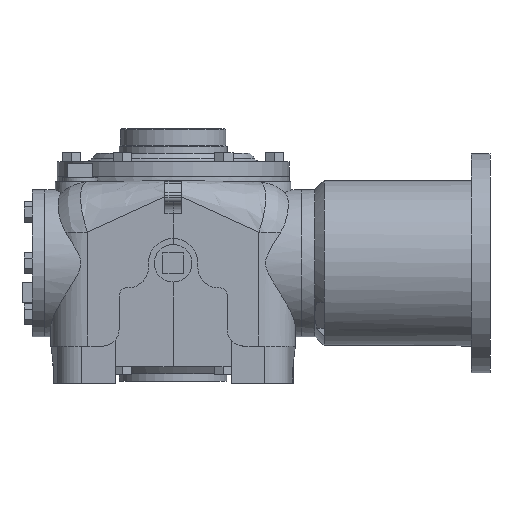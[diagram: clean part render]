
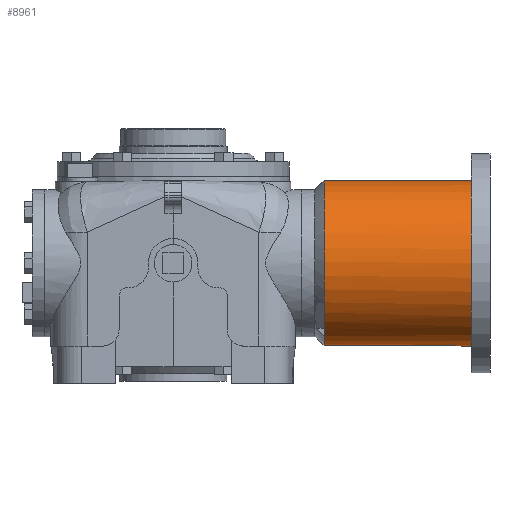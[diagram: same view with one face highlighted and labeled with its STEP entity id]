
A CAD part, front view. The second image highlights one B-rep face of the part: STEP entity #8961.
In plain terms, the highlighted cylindrical face has radius 63.5 mm (diameter 127 mm), a full revolution.
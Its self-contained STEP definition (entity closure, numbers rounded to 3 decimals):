
#212=CYLINDRICAL_SURFACE('',#11303,63.5);
#863=LINE('',#18647,#1651);
#864=LINE('',#18660,#1652);
#1651=VECTOR('',#13331,1000.);
#1652=VECTOR('',#13332,1000.);
#2043=B_SPLINE_CURVE_WITH_KNOTS('',3,(#18649,#18650,#18651,#18652,#18653,
#18654,#18655,#18656,#18657,#18658),.UNSPECIFIED.,.F.,.F.,(4,1,1,1,1,1,
1,4),(0.,0.002,0.005,0.007,0.01,
0.012,0.015,0.02),.UNSPECIFIED.);
#4096=ORIENTED_EDGE('',*,*,#5542,.F.);
#4097=ORIENTED_EDGE('',*,*,#5543,.F.);
#4098=ORIENTED_EDGE('',*,*,#5544,.F.);
#4099=ORIENTED_EDGE('',*,*,#5428,.T.);
#4100=ORIENTED_EDGE('',*,*,#5545,.T.);
#4101=ORIENTED_EDGE('',*,*,#5422,.T.);
#4102=ORIENTED_EDGE('',*,*,#5541,.F.);
#5422=EDGE_CURVE('',#6371,#6372,#6739,.T.);
#5428=EDGE_CURVE('',#6377,#6376,#6741,.T.);
#5541=EDGE_CURVE('',#6459,#6459,#6761,.T.);
#5542=EDGE_CURVE('',#6460,#6372,#863,.F.);
#5543=EDGE_CURVE('',#6461,#6460,#2043,.T.);
#5544=EDGE_CURVE('',#6377,#6461,#864,.T.);
#5545=EDGE_CURVE('',#6376,#6371,#6762,.T.);
#6371=VERTEX_POINT('',#18368);
#6372=VERTEX_POINT('',#18369);
#6376=VERTEX_POINT('',#18391);
#6377=VERTEX_POINT('',#18393);
#6459=VERTEX_POINT('',#18645);
#6460=VERTEX_POINT('',#18648);
#6461=VERTEX_POINT('',#18659);
#6739=CIRCLE('',#11232,63.5);
#6741=CIRCLE('',#11234,63.5);
#6761=CIRCLE('',#11302,63.5);
#6762=CIRCLE('',#11304,63.5);
#7346=EDGE_LOOP('',(#4096,#4097,#4098,#4099,#4100,#4101));
#7347=EDGE_LOOP('',(#4102));
#8040=FACE_BOUND('',#7346,.T.);
#8041=FACE_BOUND('',#7347,.T.);
#8961=ADVANCED_FACE('',(#8040,#8041),#212,.T.);
#11232=AXIS2_PLACEMENT_3D('',#18367,#13097,#13098);
#11234=AXIS2_PLACEMENT_3D('',#18392,#13101,#13102);
#11302=AXIS2_PLACEMENT_3D('',#18644,#13327,#13328);
#11303=AXIS2_PLACEMENT_3D('',#18646,#13329,#13330);
#11304=AXIS2_PLACEMENT_3D('',#18661,#13333,#13334);
#13097=DIRECTION('',(1.,0.,0.));
#13098=DIRECTION('',(0.,0.,-1.));
#13101=DIRECTION('',(1.,0.,0.));
#13102=DIRECTION('',(0.,0.,-1.));
#13327=DIRECTION('',(1.,0.,0.));
#13328=DIRECTION('',(0.,0.,-1.));
#13329=DIRECTION('',(1.,0.,0.));
#13330=DIRECTION('',(0.,0.,-1.));
#13331=DIRECTION('',(1.,0.,0.));
#13332=DIRECTION('',(1.,0.,0.));
#13333=DIRECTION('',(1.,0.,0.));
#13334=DIRECTION('',(0.,0.,-1.));
#18367=CARTESIAN_POINT('',(17.241,0.,0.));
#18368=CARTESIAN_POINT('',(17.241,-29.972,-55.982));
#18369=CARTESIAN_POINT('',(17.241,-6.35,-63.182));
#18391=CARTESIAN_POINT('',(17.241,-55.982,-29.972));
#18392=CARTESIAN_POINT('',(17.241,0.,0.));
#18393=CARTESIAN_POINT('',(17.241,6.35,-63.182));
#18644=CARTESIAN_POINT('',(130.239,0.,0.));
#18645=CARTESIAN_POINT('',(130.239,0.,-63.5));
#18646=CARTESIAN_POINT('',(98.425,0.,0.));
#18647=CARTESIAN_POINT('',(98.425,-6.35,-63.182));
#18648=CARTESIAN_POINT('',(116.777,-6.35,-63.182));
#18649=CARTESIAN_POINT('',(116.777,6.35,-63.182));
#18650=CARTESIAN_POINT('',(117.616,6.35,-63.182));
#18651=CARTESIAN_POINT('',(119.269,6.018,-63.216));
#18652=CARTESIAN_POINT('',(121.384,4.606,-63.341));
#18653=CARTESIAN_POINT('',(122.794,2.497,-63.466));
#18654=CARTESIAN_POINT('',(123.292,0.005,-63.517));
#18655=CARTESIAN_POINT('',(122.798,-2.488,-63.466));
#18656=CARTESIAN_POINT('',(120.916,-5.314,-63.298));
#18657=CARTESIAN_POINT('',(118.455,-6.35,-63.182));
#18658=CARTESIAN_POINT('',(116.777,-6.35,-63.182));
#18659=CARTESIAN_POINT('',(116.777,6.35,-63.182));
#18660=CARTESIAN_POINT('',(98.425,6.35,-63.182));
#18661=CARTESIAN_POINT('',(17.241,0.,0.));
